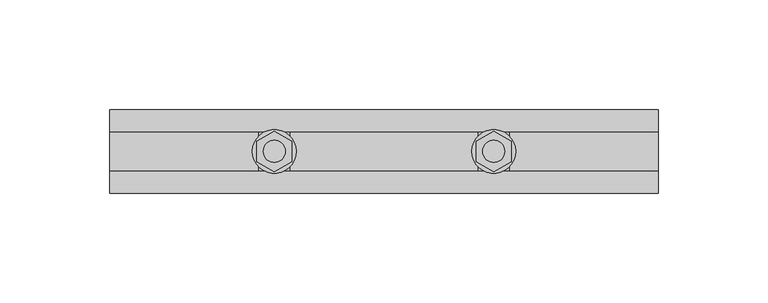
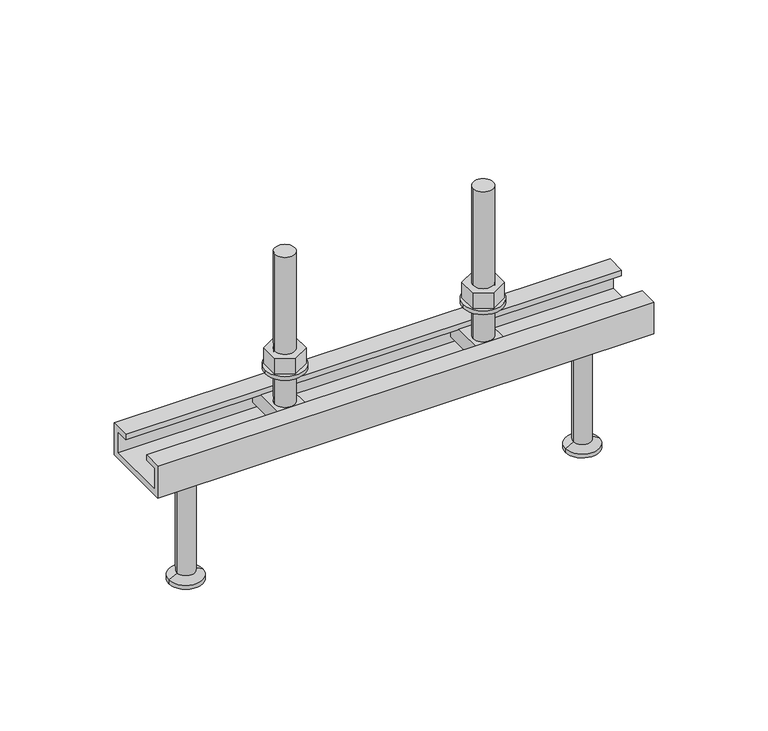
"""IFC4 building model written with IfcOpenShell, lengths in millimetres: fastener geometry, JTA-K JORDAHL® AnchorChannels : JTA-K L=250 mm."""

from ifc_helpers import new_model, si_unit, point, frame, frame_2d, origin, place, context, project, spatial, polyline, circle_curve, trimmed, segment, composite_curve, outline, extrude, source, transform, mapped, element, save
from ifc_brep_helpers import plane_surface, cylinder_surface, revolved_surface, advanced_brep


def fastener_93242841(model_context):
    return source(origin(), model_context, "Body", "SolidModel", [
        extrude(outline(polyline([(175.0, 9.2376043), (183.0, 4.6188022), (183.0, -4.6188022), (175.0, -9.2376043), (167.0, -4.6188022), (167.0, 4.6188022), (175.0, 9.2376043)]), holes=[composite_curve([segment(trimmed(circle_curve(frame_2d((175.0, 0.0)), 5.0), [point((170.0, 0.0))], [point((180.0, 0.0))], True, "CARTESIAN"), True, "CONTINUOUS"), segment(trimmed(circle_curve(frame_2d((175.0, 0.0)), 5.0), [point((180.0, 0.0))], [point((170.0, 0.0))], True, "CARTESIAN"), True, "CONTINUOUS")], self_intersect=False)]), frame((0.0, 0.0, 17.0), z_axis=(0.0, 0.0, 1.0), x_axis=(1.0, 0.0, 0.0)), (0.0, 0.0, 1.0), 8.4),
        extrude(outline(composite_curve([segment(trimmed(circle_curve(frame_2d((175.0, 0.0)), 10.0), [point((165.0, 0.0))], [point((185.0, 0.0))], False, "CARTESIAN"), True, "CONTINUOUS"), segment(trimmed(circle_curve(frame_2d((175.0, 0.0)), 10.0), [point((185.0, 0.0))], [point((165.0, 0.0))], False, "CARTESIAN"), True, "CONTINUOUS")], self_intersect=False), holes=[composite_curve([segment(trimmed(circle_curve(frame_2d((175.0, 0.0)), 5.25), [point((169.75, 0.0))], [point((180.25, 0.0))], True, "CARTESIAN"), True, "CONTINUOUS"), segment(trimmed(circle_curve(frame_2d((175.0, 0.0)), 5.25), [point((180.25, 0.0))], [point((169.75, 0.0))], True, "CARTESIAN"), True, "CONTINUOUS")], self_intersect=False)]), frame((0.0, 0.0, 15.0), z_axis=(0.0, 0.0, 1.0), x_axis=(1.0, 0.0, 0.0)), (0.0, 0.0, 1.0), 2.0),
        extrude(outline(polyline([(75.0, 9.2376043), (83.0, 4.6188022), (83.0, -4.6188022), (75.0, -9.2376043), (67.0, -4.6188022), (67.0, 4.6188022), (75.0, 9.2376043)]), holes=[composite_curve([segment(trimmed(circle_curve(frame_2d((75.0, 0.0)), 5.0), [point((70.0, 0.0))], [point((80.0, 0.0))], True, "CARTESIAN"), True, "CONTINUOUS"), segment(trimmed(circle_curve(frame_2d((75.0, 0.0)), 5.0), [point((80.0, 0.0))], [point((70.0, 0.0))], True, "CARTESIAN"), True, "CONTINUOUS")], self_intersect=False)]), frame((0.0, 0.0, 17.0), z_axis=(0.0, 0.0, 1.0), x_axis=(1.0, 0.0, 0.0)), (0.0, 0.0, 1.0), 8.4),
        extrude(outline(composite_curve([segment(trimmed(circle_curve(frame_2d((75.0, 0.0)), 10.0), [point((65.0, 0.0))], [point((85.0, 0.0))], False, "CARTESIAN"), True, "CONTINUOUS"), segment(trimmed(circle_curve(frame_2d((75.0, 0.0)), 10.0), [point((85.0, 0.0))], [point((65.0, 0.0))], False, "CARTESIAN"), True, "CONTINUOUS")], self_intersect=False), holes=[composite_curve([segment(trimmed(circle_curve(frame_2d((75.0, 0.0)), 5.25), [point((69.75, 0.0))], [point((80.25, 0.0))], True, "CARTESIAN"), True, "CONTINUOUS"), segment(trimmed(circle_curve(frame_2d((75.0, 0.0)), 5.25), [point((80.25, 0.0))], [point((69.75, 0.0))], True, "CARTESIAN"), True, "CONTINUOUS")], self_intersect=False)]), frame((0.0, 0.0, 15.0), z_axis=(0.0, 0.0, 1.0), x_axis=(1.0, 0.0, 0.0)), (0.0, 0.0, 1.0), 2.0),
        advanced_brep(
        [(182.0, 16.0, -3.0), (182.0, -16.0, -3.0), (182.0, -16.0, -11.0), (182.0, 16.0, -11.0), (168.0, 16.0, -3.0), (168.0, 16.0, -11.0), (168.0, -16.0, -11.0), (168.0, -16.0, -3.0), (180.0, 0.0, -3.0), (170.0, 0.0, -3.0), (170.0, 0.0, 77.0), (180.0, 0.0, 77.0)],
        [
            (0, 1),
            (1, 2),
            (2, 3),
            (3, 0),
            (4, 5),
            (5, 6),
            (6, 7),
            (7, 4),
            (0, 4),
            (7, 1),
            (8, 9, circle_curve(frame((175.0, 0.0, -3.0), z_axis=(0.0, 0.0, -1.0), x_axis=(1.0, 0.0, 0.0)), 5.0)),
            (9, 8, circle_curve(frame((175.0, 0.0, -3.0), z_axis=(0.0, 0.0, -1.0), x_axis=(1.0, 0.0, 0.0)), 5.0)),
            (6, 2),
            (5, 3),
            (10, 11, circle_curve(frame((175.0, 0.0, 77.0), z_axis=(0.0, 0.0, 1.0), x_axis=(1.0, 0.0, 0.0)), 5.0)),
            (11, 10, circle_curve(frame((175.0, 0.0, 77.0), z_axis=(0.0, 0.0, 1.0), x_axis=(1.0, 0.0, 0.0)), 5.0)),
            (10, 9),
            (8, 11),
        ],
        [
            plane_surface(frame((182.0, -16.0, -3.0), z_axis=(1.0, 0.0, 0.0), x_axis=(0.0, -1.0, 0.0))),
            plane_surface(frame((168.0, -16.0, -3.0), z_axis=(-1.0, 0.0, 0.0), x_axis=(0.0, 1.0, 0.0))),
            plane_surface(frame((182.0, 16.0, -3.0), z_axis=(0.0, 0.0, 1.0), x_axis=(-1.0, 0.0, 0.0))),
            plane_surface(frame((182.0, -16.0, -3.0), z_axis=(0.0, -1.0, 0.0), x_axis=(-1.0, 0.0, 0.0))),
            plane_surface(frame((182.0, -16.0, -11.0), z_axis=(0.0, 0.0, -1.0), x_axis=(-1.0, 0.0, 0.0))),
            plane_surface(frame((182.0, 16.0, -11.0), z_axis=(0.0, 1.0, 0.0), x_axis=(-1.0, 0.0, 0.0))),
            plane_surface(frame((180.0, 0.0, 77.0), z_axis=(0.0, 0.0, 1.0), x_axis=(0.0, 1.0, 0.0))),
            cylinder_surface(frame((175.0, 0.0, -3.0), z_axis=(0.0, 0.0, 1.0), x_axis=(1.0, 0.0, 0.0)), 5.0),
        ],
        [
            (0, [[1, 2, 3, 4]]),
            (1, [[5, 6, 7, 8]]),
            (2, [[-1, 9, -8, 10], [11, 12]]),
            (3, [[-2, -10, -7, 13]]),
            (4, [[-3, -13, -6, 14]]),
            (5, [[-4, -14, -5, -9]]),
            (6, [[15, 16]]),
            (7, [[-15, 17, -11, 18]]),
            (7, [[-16, -18, -12, -17]]),
        ],
    ),
        advanced_brep(
        [(82.0, 16.0, -3.0), (82.0, -16.0, -3.0), (82.0, -16.0, -11.0), (82.0, 16.0, -11.0), (68.0, 16.0, -3.0), (68.0, 16.0, -11.0), (68.0, -16.0, -11.0), (68.0, -16.0, -3.0), (80.0, 0.0, -3.0), (70.0, 0.0, -3.0), (70.0, 0.0, 77.0), (80.0, 0.0, 77.0)],
        [
            (0, 1),
            (1, 2),
            (2, 3),
            (3, 0),
            (4, 5),
            (5, 6),
            (6, 7),
            (7, 4),
            (0, 4),
            (7, 1),
            (8, 9, circle_curve(frame((75.0, 0.0, -3.0), z_axis=(0.0, 0.0, -1.0), x_axis=(1.0, 0.0, 0.0)), 5.0)),
            (9, 8, circle_curve(frame((75.0, 0.0, -3.0), z_axis=(0.0, 0.0, -1.0), x_axis=(1.0, 0.0, 0.0)), 5.0)),
            (6, 2),
            (5, 3),
            (10, 11, circle_curve(frame((75.0, 0.0, 77.0), z_axis=(0.0, 0.0, 1.0), x_axis=(1.0, 0.0, 0.0)), 5.0)),
            (11, 10, circle_curve(frame((75.0, 0.0, 77.0), z_axis=(0.0, 0.0, 1.0), x_axis=(1.0, 0.0, 0.0)), 5.0)),
            (10, 9),
            (8, 11),
        ],
        [
            plane_surface(frame((82.0, -16.0, -3.0), z_axis=(1.0, 0.0, 0.0), x_axis=(0.0, -1.0, 0.0))),
            plane_surface(frame((68.0, -16.0, -3.0), z_axis=(-1.0, 0.0, 0.0), x_axis=(0.0, 1.0, 0.0))),
            plane_surface(frame((82.0, 16.0, -3.0), z_axis=(0.0, 0.0, 1.0), x_axis=(-1.0, 0.0, 0.0))),
            plane_surface(frame((82.0, -16.0, -3.0), z_axis=(0.0, -1.0, 0.0), x_axis=(-1.0, 0.0, 0.0))),
            plane_surface(frame((82.0, -16.0, -11.0), z_axis=(0.0, 0.0, -1.0), x_axis=(-1.0, 0.0, 0.0))),
            plane_surface(frame((82.0, 16.0, -11.0), z_axis=(0.0, 1.0, 0.0), x_axis=(-1.0, 0.0, 0.0))),
            plane_surface(frame((80.0, 0.0, 77.0), z_axis=(0.0, 0.0, 1.0), x_axis=(0.0, 1.0, 0.0))),
            cylinder_surface(frame((75.0, 0.0, -3.0), z_axis=(0.0, 0.0, 1.0), x_axis=(1.0, 0.0, 0.0)), 5.0),
        ],
        [
            (0, [[1, 2, 3, 4]]),
            (1, [[5, 6, 7, 8]]),
            (2, [[-1, 9, -8, 10], [11, 12]]),
            (3, [[-2, -10, -7, 13]]),
            (4, [[-3, -13, -6, 14]]),
            (5, [[-4, -14, -5, -9]]),
            (6, [[15, 16]]),
            (7, [[-15, 17, -11, 18]]),
            (7, [[-16, -18, -12, -17]]),
        ],
    ),
        advanced_brep(
        [(225.0, 0.0, -17.0), (238.5, 0.0, -17.0), (211.5, 0.0, -17.0), (216.5, 0.0, -80.0), (233.5, 0.0, -80.0), (225.0, 0.0, -80.0), (216.5, 0.0, -78.0), (233.5, 0.0, -78.0), (220.5, 0.0, -75.6905989), (229.5, 0.0, -75.6905989), (220.5, 0.0, -19.5), (229.5, 0.0, -19.5)],
        [
            (0, 1),
            (1, 2, circle_curve(frame((225.0, 0.0, -17.0), z_axis=(0.0, 0.0, 1.0), x_axis=(1.0, 0.0, 0.0)), 13.5)),
            (2, 0),
            (2, 1, circle_curve(frame((225.0, 0.0, -17.0), z_axis=(0.0, 0.0, 1.0), x_axis=(1.0, 0.0, 0.0)), 13.5)),
            (3, 4, circle_curve(frame((225.0, 0.0, -80.0), z_axis=(0.0, 0.0, -1.0), x_axis=(1.0, 0.0, 0.0)), 8.5)),
            (4, 5),
            (5, 3),
            (4, 3, circle_curve(frame((225.0, 0.0, -80.0), z_axis=(0.0, 0.0, -1.0), x_axis=(1.0, 0.0, 0.0)), 8.5)),
            (6, 7, circle_curve(frame((225.0, 0.0, -78.0), z_axis=(0.0, 0.0, -1.0), x_axis=(1.0, 0.0, 0.0)), 8.5)),
            (7, 4),
            (3, 6),
            (7, 6, circle_curve(frame((225.0, 0.0, -78.0), z_axis=(0.0, 0.0, -1.0), x_axis=(1.0, 0.0, 0.0)), 8.5)),
            (8, 9, circle_curve(frame((225.0, 0.0, -75.6905989), z_axis=(0.0, 0.0, -1.0), x_axis=(1.0, 0.0, 0.0)), 4.5)),
            (9, 7),
            (6, 8),
            (9, 8, circle_curve(frame((225.0, 0.0, -75.6905989), z_axis=(0.0, 0.0, -1.0), x_axis=(1.0, 0.0, 0.0)), 4.5)),
            (10, 11, circle_curve(frame((225.0, 0.0, -19.5), z_axis=(0.0, 0.0, -1.0), x_axis=(1.0, 0.0, 0.0)), 4.5)),
            (11, 9),
            (8, 10),
            (11, 10, circle_curve(frame((225.0, 0.0, -19.5), z_axis=(0.0, 0.0, -1.0), x_axis=(1.0, 0.0, 0.0)), 4.5)),
            (1, 11),
            (10, 2),
        ],
        [
            plane_surface(frame((225.0, 0.0, -17.0), z_axis=(0.0, 0.0, 1.0), x_axis=(1.0, 0.0, 0.0))),
            plane_surface(frame((225.0, 0.0, -80.0), z_axis=(0.0, 0.0, -1.0), x_axis=(1.0, 0.0, 0.0))),
            cylinder_surface(frame((225.0, 0.0, 2277.3150031), z_axis=(0.0, 0.0, 1.0), x_axis=(1.0, 0.0, 0.0)), 8.5),
            revolved_surface(polyline([(233.5, 0.0, -78.0), (229.5, 0.0, -75.6905989)]), (225.0, 0.0, 2277.3150031), (0.0, 0.0, 1.0)),
            cylinder_surface(frame((225.0, 0.0, 2277.3150031), z_axis=(0.0, 0.0, 1.0), x_axis=(1.0, 0.0, 0.0)), 4.5),
            revolved_surface(polyline([(229.5, 0.0, -19.5), (238.5, 0.0, -17.0)]), (225.0, 0.0, 2277.3150031), (0.0, 0.0, 1.0)),
        ],
        [
            (0, [[1, 2, 3]]),
            (0, [[-3, 4, -1]]),
            (1, [[5, 6, 7]]),
            (1, [[8, -7, -6]]),
            (2, [[9, 10, -5, 11]]),
            (2, [[12, -11, -8, -10]]),
            (3, [[13, 14, -9, 15]]),
            (3, [[16, -15, -12, -14]]),
            (4, [[17, 18, -13, 19]]),
            (4, [[20, -19, -16, -18]]),
            (5, [[-2, 21, -17, 22]]),
            (5, [[-4, -22, -20, -21]]),
        ],
    ),
        advanced_brep(
        [(25.0, 0.0, -17.0), (38.5, 0.0, -17.0), (11.5, 0.0, -17.0), (16.5, 0.0, -80.0), (33.5, 0.0, -80.0), (25.0, 0.0, -80.0), (16.5, 0.0, -78.0), (33.5, 0.0, -78.0), (20.5, 0.0, -75.6905989), (29.5, 0.0, -75.6905989), (20.5, 0.0, -19.5), (29.5, 0.0, -19.5)],
        [
            (0, 1),
            (1, 2, circle_curve(frame((25.0, 0.0, -17.0), z_axis=(0.0, 0.0, 1.0), x_axis=(1.0, 0.0, 0.0)), 13.5)),
            (2, 0),
            (2, 1, circle_curve(frame((25.0, 0.0, -17.0), z_axis=(0.0, 0.0, 1.0), x_axis=(1.0, 0.0, 0.0)), 13.5)),
            (3, 4, circle_curve(frame((25.0, 0.0, -80.0), z_axis=(0.0, 0.0, -1.0), x_axis=(1.0, 0.0, 0.0)), 8.5)),
            (4, 5),
            (5, 3),
            (4, 3, circle_curve(frame((25.0, 0.0, -80.0), z_axis=(0.0, 0.0, -1.0), x_axis=(1.0, 0.0, 0.0)), 8.5)),
            (6, 7, circle_curve(frame((25.0, 0.0, -78.0), z_axis=(0.0, 0.0, -1.0), x_axis=(1.0, 0.0, 0.0)), 8.5)),
            (7, 4),
            (3, 6),
            (7, 6, circle_curve(frame((25.0, 0.0, -78.0), z_axis=(0.0, 0.0, -1.0), x_axis=(1.0, 0.0, 0.0)), 8.5)),
            (8, 9, circle_curve(frame((25.0, 0.0, -75.6905989), z_axis=(0.0, 0.0, -1.0), x_axis=(1.0, 0.0, 0.0)), 4.5)),
            (9, 7),
            (6, 8),
            (9, 8, circle_curve(frame((25.0, 0.0, -75.6905989), z_axis=(0.0, 0.0, -1.0), x_axis=(1.0, 0.0, 0.0)), 4.5)),
            (10, 11, circle_curve(frame((25.0, 0.0, -19.5), z_axis=(0.0, 0.0, -1.0), x_axis=(1.0, 0.0, 0.0)), 4.5)),
            (11, 9),
            (8, 10),
            (11, 10, circle_curve(frame((25.0, 0.0, -19.5), z_axis=(0.0, 0.0, -1.0), x_axis=(1.0, 0.0, 0.0)), 4.5)),
            (1, 11),
            (10, 2),
        ],
        [
            plane_surface(frame((25.0, 0.0, -17.0), z_axis=(0.0, 0.0, 1.0), x_axis=(1.0, 0.0, 0.0))),
            plane_surface(frame((25.0, 0.0, -80.0), z_axis=(0.0, 0.0, -1.0), x_axis=(1.0, 0.0, 0.0))),
            cylinder_surface(frame((25.0, 0.0, 2277.3150031), z_axis=(0.0, 0.0, 1.0), x_axis=(1.0, 0.0, 0.0)), 8.5),
            revolved_surface(polyline([(33.5, 0.0, -78.0), (29.5, 0.0, -75.6905989)]), (25.0, 0.0, 2277.3150031), (0.0, 0.0, 1.0)),
            cylinder_surface(frame((25.0, 0.0, 2277.3150031), z_axis=(0.0, 0.0, 1.0), x_axis=(1.0, 0.0, 0.0)), 4.5),
            revolved_surface(polyline([(29.5, 0.0, -19.5), (38.5, 0.0, -17.0)]), (25.0, 0.0, 2277.3150031), (0.0, 0.0, 1.0)),
        ],
        [
            (0, [[1, 2, 3]]),
            (0, [[-3, 4, -1]]),
            (1, [[5, 6, 7]]),
            (1, [[8, -7, -6]]),
            (2, [[9, 10, -5, 11]]),
            (2, [[12, -11, -8, -10]]),
            (3, [[13, 14, -9, 15]]),
            (3, [[16, -15, -12, -14]]),
            (4, [[17, 18, -13, 19]]),
            (4, [[20, -19, -16, -18]]),
            (5, [[-2, 21, -17, 22]]),
            (5, [[-4, -22, -20, -21]]),
        ],
    ),
        extrude(outline(polyline([(19.0, 0.0), (19.0, -17.0), (-19.0, -17.0), (-19.0, 0.0), (-9.0, 0.0), (-9.0, -3.0), (-16.0, -3.0), (-16.0, -14.0), (16.0, -14.0), (16.0, -3.0), (9.0, -3.0), (9.0, 0.0), (19.0, 0.0)])), frame((0.0, 0.0, 0.0), z_axis=(1.0, 0.0, 0.0), x_axis=(0.0, 1.0, 0.0)), (0.0, 0.0, 1.0), 250.0),
    ])


if __name__ == "__main__":
    model = new_model("IFC4")
    model_context = context("Model", 3, world=origin())
    ifc_project = project(units=[si_unit("LENGTHUNIT", "METRE", prefix="MILLI")], contexts=[model_context])
    site = spatial("IfcSite", under=ifc_project)
    building = spatial("IfcBuilding", under=site)
    placement = place(None, origin())
    fastener_shape = fastener_93242841(model_context)
    element("IfcFastener", 1, ObjectType="JTA-K JORDAHL® AnchorChannels : JTA-K L=250 mm", at=placement, inside=building, context=model_context, shape_type="MappedRepresentation", body=[
        mapped(fastener_shape, transform((0.0, 0.0, 0.0), x_axis=(1.0, 0.0, 0.0), y_axis=(0.0, 1.0, 0.0), z_axis=(0.0, 0.0, 1.0))),
    ])
    save(model, "model.ifc")
